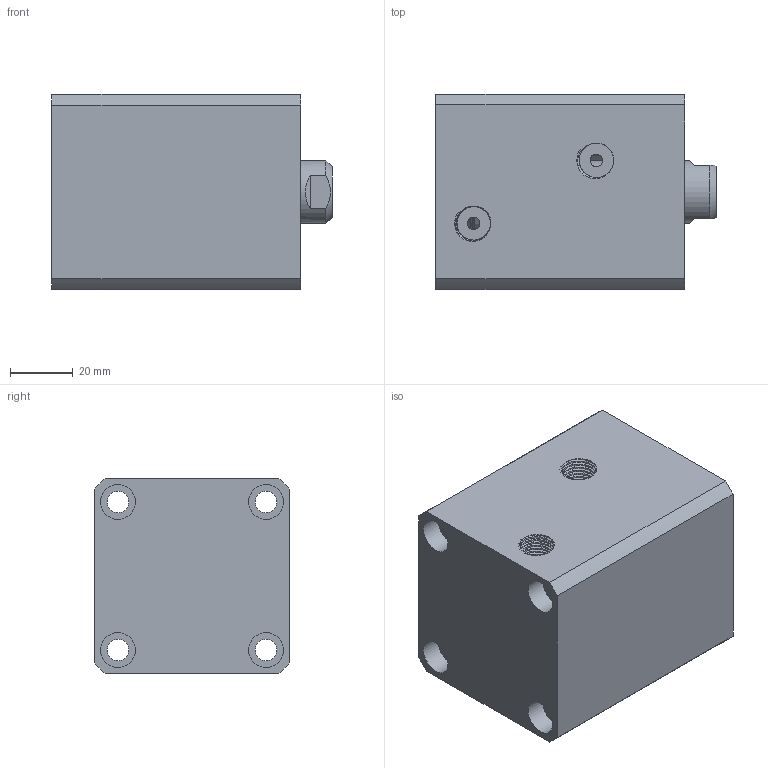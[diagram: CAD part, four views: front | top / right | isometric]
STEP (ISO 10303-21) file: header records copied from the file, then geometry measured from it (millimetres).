
FILE_DESCRIPTION(/* description */ (''),/* implementation_level */ '2;1');
FILE_NAME(/* name */ 'CHTB-sd32x25n.stp',/* time_stamp */ '2022-04-29T16:35:05+08:00',/* author */ (''),/* organization */ (''),/* preprocessor_version */ 'ST-DEVELOPER v16.7',/* originating_system */ 'SIEMENS PLM Software NX 12.0',/* authorisation */ '');
FILE_SCHEMA (('AUTOMOTIVE_DESIGN { 1 0 10303 214 3 1 1 1 }'));
Length unit declared in the file: millimetre
Products named in the file (1): CHTB-sd32x25n
Bounding box: 89 x 62 x 62 mm (x, y, z)
Volume: 241850.3 mm3; surface area: 60932.7 mm2
Topology: 2 solids, 3 shells, 512 faces, 1427 edges, 959 vertices
Faces by surface type: plane 272, extrusion 99, cylinder 72, bspline 38, cone 19, torus 12
Full cylindrical faces by diameter (mm): 3 x2, 4 x2, 6.8 x4, 10 x7, 11 x17, 20 x2, 24.5 x1, 26 x2, 32 x4, 40 x1
Entity records: 30188 total; most frequent: CARTESIAN_POINT 16534, ORIENTED_EDGE 2552, DIRECTION 1758, EDGE_CURVE 1276, VERTEX_POINT 884, VECTOR 858, LINE 759, EDGE_LOOP 585
